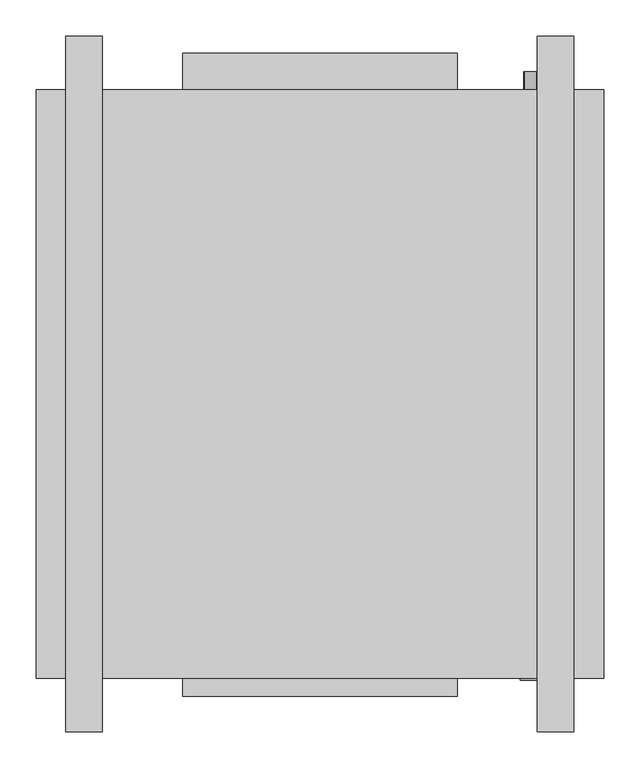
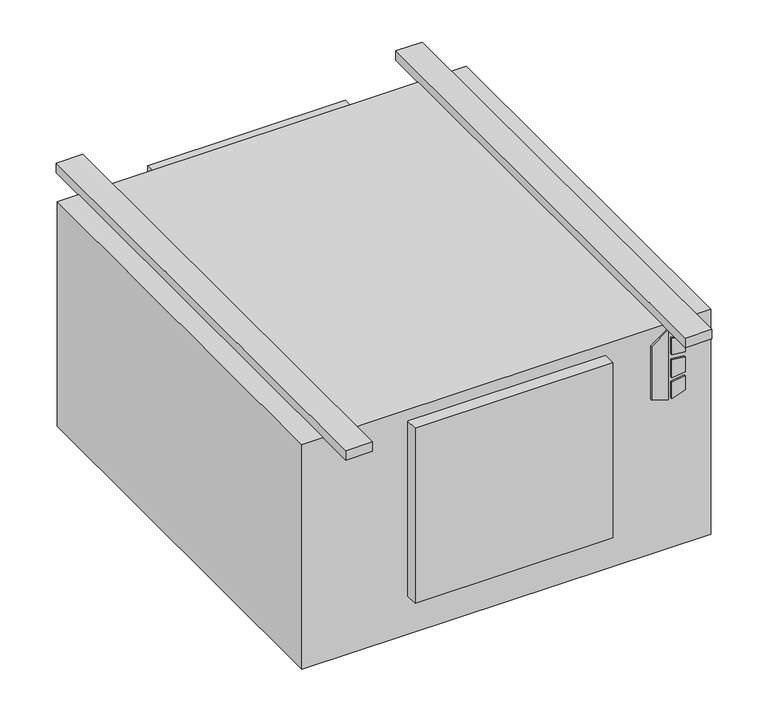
"""IFC4 building model written with IfcOpenShell, lengths in millimetres: proxy geometry, Concealed_High_Capacity_Horizontal_Cabinet_Fan_Coil_Unit_-_HXY_-_IEC_-_4-Pipe_RH_2022 : Size 06 - 277v/60Hz/1Ph - 6/2 Coil."""

import ifcopenshell
import ifcopenshell.guid

model = None  # the IFC model being written
_history = None  # IfcOwnerHistory: only IFC2X3 demands one
_inside = {}  # id of a spatial element -> (the spatial element, [elements in it])
_under = {}  # id of a project, library or spatial element -> (it, [spatial elements below it])
_declared = {}  # id of a project -> (the project, [libraries it declares])
_typed = {}  # id of a type object -> (the type object, [elements of that type])
_made_of = {}  # id of a material, layer set ... -> (it, [elements and type objects made of it])


def new_model(schema):
    """Start an empty IFC model of exactly this schema.

    Asked for "IFC4X3", IfcOpenShell would pick the latest addendum, in which some entities
    have other attributes; the version numbers below select the first issue.
    IFC2X3 requires an IfcOwnerHistory on every rooted entity: one is made here for all.
    """
    global model, _history
    if schema == "IFC4X3":
        model = ifcopenshell.file(schema_version=(4, 3, 0, 0))
    else:
        model = ifcopenshell.file(schema=schema)
    _inside.clear()
    _under.clear()
    _declared.clear()
    _typed.clear()
    _made_of.clear()
    _history = None
    if model.schema == "IFC2X3":
        org = make("IfcOrganization", Name="unknown")
        user = make(
            "IfcPersonAndOrganization",
            ThePerson=make("IfcPerson", FamilyName="unknown"),
            TheOrganization=org,
        )
        app = make(
            "IfcApplication",
            ApplicationDeveloper=org,
            Version="unknown",
            ApplicationFullName="unknown",
            ApplicationIdentifier="unknown",
        )
        _history = make(
            "IfcOwnerHistory",
            OwningUser=user,
            OwningApplication=app,
            ChangeAction="ADDED",
            CreationDate=0,
        )
    return model


def make(cls, **values):
    """One entity of the class cls with the attributes given. An attribute that is None is left unset."""
    return model.create_entity(
        cls, **{name: value for name, value in values.items() if value is not None}
    )


def rooted(cls, **values):
    """An entity with a GlobalId (a new one), such as an element, a storey or a relation."""
    return make(cls, GlobalId=ifcopenshell.guid.new(), OwnerHistory=_history, **values)


def si_unit(unit_type, name, prefix=None):
    """IfcSIUnit, for example si_unit("LENGTHUNIT", "METRE", prefix="MILLI")."""
    return make("IfcSIUnit", UnitType=unit_type, Prefix=prefix, Name=name)


def assignment(units):
    """IfcUnitAssignment: the units of a project."""
    return None if units is None else make("IfcUnitAssignment", Units=units)


def point(xyz):
    """IfcCartesianPoint."""
    return None if xyz is None else make("IfcCartesianPoint", Coordinates=xyz)


def direction(xyz):
    """IfcDirection."""
    return None if xyz is None else make("IfcDirection", DirectionRatios=xyz)


def frame(location, z_axis=None, x_axis=None):
    """IfcAxis2Placement3D, a coordinate frame: its origin and axes. An axis left out is left unset."""
    return make(
        "IfcAxis2Placement3D",
        Location=point(location),
        Axis=direction(z_axis),
        RefDirection=direction(x_axis),
    )


def frame_2d(location, x_axis=None):
    """IfcAxis2Placement2D, a coordinate frame in the plane: its origin and x axis."""
    return make(
        "IfcAxis2Placement2D", Location=point(location), RefDirection=direction(x_axis)
    )


def origin():
    """The frame at (0, 0, 0) with its axes left unset."""
    return frame((0.0, 0.0, 0.0))


def origin_with_axes():
    """The frame at (0, 0, 0) with the z axis (0, 0, 1) and the x axis (1, 0, 0) written out."""
    return frame((0.0, 0.0, 0.0), z_axis=(0.0, 0.0, 1.0), x_axis=(1.0, 0.0, 0.0))


def place(relative_to, where):
    """IfcLocalPlacement: puts the frame where relative to a parent placement (None: the world)."""
    return make(
        "IfcLocalPlacement", PlacementRelTo=relative_to, RelativePlacement=where
    )


def context(
    kind, dimensions, precision=None, world=None, true_north=None, identifier=None
):
    """IfcGeometricRepresentationContext, for example the 3D "Model" context."""
    return make(
        "IfcGeometricRepresentationContext",
        ContextIdentifier=identifier,
        ContextType=kind,
        CoordinateSpaceDimension=dimensions,
        Precision=precision,
        WorldCoordinateSystem=world,
        TrueNorth=true_north,
    )


def project(units=None, contexts=None):
    """IfcProject with its units and contexts."""
    return rooted(
        "IfcProject",
        Name="project",
        RepresentationContexts=contexts,
        UnitsInContext=assignment(units),
    )


def spatial(cls, under=None, at=None, **own):
    """A site, building, storey or space (cls), placed at a placement, below another one or the project."""
    s = rooted(cls, ObjectPlacement=at, **own)
    if under is not None:
        _under.setdefault(under.id(), (under, []))[1].append(s)
    return s


def polyline(points):
    """IfcPolyline through the points."""
    return make("IfcPolyline", Points=[point(p) for p in points])


def circle_curve(where, radius):
    """IfcCircle in the frame where."""
    return make("IfcCircle", Position=where, Radius=radius)


def trimmed(basis, trim1, trim2, sense, master):
    """IfcTrimmedCurve: the piece of a basis curve between two trims."""
    return make(
        "IfcTrimmedCurve",
        BasisCurve=basis,
        Trim1=trim1,
        Trim2=trim2,
        SenseAgreement=sense,
        MasterRepresentation=master,
    )


def segment(curve, same_sense, transition):
    """IfcCompositeCurveSegment."""
    return make(
        "IfcCompositeCurveSegment",
        Transition=transition,
        SameSense=same_sense,
        ParentCurve=curve,
    )


def composite_curve(segments, self_intersect=None):
    """IfcCompositeCurve: segments joined end to end."""
    return make("IfcCompositeCurve", Segments=segments, SelfIntersect=self_intersect)


def outline(outer, holes=None, kind="AREA"):
    """IfcArbitraryClosedProfileDef: a profile drawn as a closed curve; with holes, ...WithVoids."""
    if holes is None:
        return make("IfcArbitraryClosedProfileDef", ProfileType=kind, OuterCurve=outer)
    return make(
        "IfcArbitraryProfileDefWithVoids",
        ProfileType=kind,
        OuterCurve=outer,
        InnerCurves=holes,
    )


def extrude(swept, where, along, depth):
    """IfcExtrudedAreaSolid: the profile swept, set in the frame where, extruded along a direction by depth."""
    return make(
        "IfcExtrudedAreaSolid",
        SweptArea=swept,
        Position=where,
        ExtrudedDirection=direction(along),
        Depth=depth,
    )


def shape(context_of_items, identifier, shape_type, items):
    """IfcShapeRepresentation: the items that make up one representation, for example the "Body"."""
    return make(
        "IfcShapeRepresentation",
        ContextOfItems=context_of_items,
        RepresentationIdentifier=identifier,
        RepresentationType=shape_type,
        Items=items,
    )


def source(mapping_origin, context_of_items, identifier, shape_type, items):
    """IfcRepresentationMap: a shape defined once, which mapped items show again and again."""
    return make(
        "IfcRepresentationMap",
        MappingOrigin=mapping_origin,
        MappedRepresentation=shape(context_of_items, identifier, shape_type, items),
    )


def transform(
    local_origin,
    x_axis=None,
    y_axis=None,
    z_axis=None,
    scale=None,
    scale2=None,
    scale3=None,
    uniform=True,
):
    """IfcCartesianTransformationOperator3D, or its non-uniform kind. x_axis, y_axis, z_axis: its Axis1, 2, 3."""
    if uniform:
        return make(
            "IfcCartesianTransformationOperator3D",
            Axis1=direction(x_axis),
            Axis2=direction(y_axis),
            LocalOrigin=point(local_origin),
            Scale=scale,
            Axis3=direction(z_axis),
        )
    return make(
        "IfcCartesianTransformationOperator3DnonUniform",
        Axis1=direction(x_axis),
        Axis2=direction(y_axis),
        LocalOrigin=point(local_origin),
        Scale=scale,
        Axis3=direction(z_axis),
        Scale2=scale2,
        Scale3=scale3,
    )


def mapped(mapping_source, mapping_target):
    """IfcMappedItem: shows the shape of a source again, moved by a transform."""
    return make(
        "IfcMappedItem", MappingSource=mapping_source, MappingTarget=mapping_target
    )


def made_of(thing, what):
    """Note that an element or type object is made of a material, layer set ...; save() writes the relation."""
    if what is not None:
        _made_of.setdefault(what.id(), (what, []))[1].append(thing)
    return thing


def element(
    cls,
    number,
    at=None,
    inside=None,
    cuts=None,
    type_object=None,
    material=None,
    context=None,
    identifier="Body",
    shape_type=None,
    held_by="IfcProductDefinitionShape",
    body=None,
    shapes=None,
    **own,
):
    """One element of the class cls, such as IfcWall. Its Tag is "e" and its number.

    at: its placement. inside: the storey or other place that contains it. cuts: it is an
    opening in that element (IfcRelVoidsElement). A single representation is given by context,
    identifier, shape_type and body (its items); several are given by shapes. held_by: the class
    of the entity that holds the representations. save() writes the other relations.
    """
    e = rooted(cls, Tag="e%d" % number, ObjectPlacement=at, **own)
    if body is not None:
        shapes = [shape(context, identifier, shape_type, body)]
    if shapes is not None:
        e.Representation = make(held_by, Representations=shapes)
    if inside is not None:
        _inside.setdefault(inside.id(), (inside, []))[1].append(e)
    if cuts is not None:
        rooted(
            "IfcRelVoidsElement", RelatingBuildingElement=cuts, RelatedOpeningElement=e
        )
    if type_object is not None:
        _typed.setdefault(type_object.id(), (type_object, []))[1].append(e)
    return made_of(e, material)


def aggregate(whole, parts):
    """IfcRelAggregates: a whole, such as a stair, and the parts it consists of."""
    return rooted("IfcRelAggregates", RelatingObject=whole, RelatedObjects=parts)


def save(model, path):
    """Write the relations noted so far, then the file.

    IfcRelAggregates (storeys below a building ...), IfcRelContainedInSpatialStructure (elements
    in a storey), IfcRelDefinesByType, IfcRelAssociatesMaterial and IfcRelDeclares: one each for
    every whole, place, type object, material and project.
    """
    for whole, parts in _under.values():
        aggregate(whole, parts)
    for where, things in _inside.values():
        rooted(
            "IfcRelContainedInSpatialStructure",
            RelatedElements=things,
            RelatingStructure=where,
        )
    for kind, things in _typed.values():
        rooted("IfcRelDefinesByType", RelatedObjects=things, RelatingType=kind)
    for what, things in _made_of.values():
        rooted("IfcRelAssociatesMaterial", RelatedObjects=things, RelatingMaterial=what)
    for by, libraries in _declared.values():
        rooted("IfcRelDeclares", RelatingContext=by, RelatedDefinitions=libraries)
    model.write(path)


def mechanical_equipment_0bdab6c6(model_context):
    return source(origin(), model_context, "Body", "SweptSolid", [
        extrude(outline(polyline([(-142.4519297, 430.2868862), (-152.4, 462.4602728), (-10.2290756, 462.4602728), (-33.2510817, 430.2868862), (-142.4519297, 430.2868862)])), frame((0.0, -649.2875, 0.0), z_axis=(0.0, 1.0, 0.0), x_axis=(0.0, 0.0, 1.0)), (0.0, 0.0, 1.0), 3.175),
        extrude(outline(polyline([(-63.4526443, 469.2186058), (-66.6550368, 495.3), (-37.4261958, 495.3), (-29.3617807, 469.2186058), (-63.4526443, 469.2186058)])), frame((0.0, -649.2875, 0.0), z_axis=(0.0, 1.0, 0.0), x_axis=(0.0, 0.0, 1.0)), (0.0, 0.0, 1.0), 3.175),
        extrude(outline(polyline([(-115.3161712, 495.3), (-118.9816721, 469.2186058), (-152.4, 469.2186058), (-143.7657628, 495.3), (-115.3161712, 495.3)])), frame((0.0, -649.2875, 0.0), z_axis=(0.0, 1.0, 0.0), x_axis=(0.0, 0.0, 1.0)), (0.0, 0.0, 1.0), 3.175),
        extrude(outline(polyline([(-76.0010097, 495.3), (-73.7191834, 469.2186058), (-109.6567319, 469.2186058), (-106.9154669, 495.3), (-76.0010097, 495.3)])), frame((0.0, -649.2875, 0.0), z_axis=(0.0, 1.0, 0.0), x_axis=(0.0, 0.0, 1.0)), (0.0, 0.0, 1.0), 3.175),
        extrude(outline(composite_curve([segment(trimmed(circle_curve(frame_2d((-406.4, 444.5)), 9.525), [point((-406.4, 434.975))], [point((-406.4, 454.025))], False, "CARTESIAN"), True, "CONTINUOUS"), segment(trimmed(circle_curve(frame_2d((-406.4, 444.5)), 9.525), [point((-406.4, 454.025))], [point((-406.4, 434.975))], False, "CARTESIAN"), True, "CONTINUOUS")], self_intersect=False)), frame((0.0, 169.8625, 0.0), z_axis=(0.0, 1.0, 0.0), x_axis=(0.0, 0.0, 1.0)), (0.0, 0.0, 1.0), 25.4),
        extrude(outline(composite_curve([segment(trimmed(circle_curve(frame_2d((-330.2, 444.5)), 7.9375), [point((-330.2, 436.5625))], [point((-330.2, 452.4375))], False, "CARTESIAN"), True, "CONTINUOUS"), segment(trimmed(circle_curve(frame_2d((-330.2, 444.5)), 7.9375), [point((-330.2, 452.4375))], [point((-330.2, 436.5625))], False, "CARTESIAN"), True, "CONTINUOUS")], self_intersect=False)), frame((0.0, 169.8625, 0.0), z_axis=(0.0, 1.0, 0.0), x_axis=(0.0, 0.0, 1.0)), (0.0, 0.0, 1.0), 25.4),
        extrude(outline(composite_curve([segment(trimmed(circle_curve(frame_2d((-254.0, 444.5)), 7.9375), [point((-254.0, 436.5625))], [point((-254.0, 452.4375))], False, "CARTESIAN"), True, "CONTINUOUS"), segment(trimmed(circle_curve(frame_2d((-254.0, 444.5)), 7.9375), [point((-254.0, 452.4375))], [point((-254.0, 436.5625))], False, "CARTESIAN"), True, "CONTINUOUS")], self_intersect=False)), frame((0.0, 169.8625, 0.0), z_axis=(0.0, 1.0, 0.0), x_axis=(0.0, 0.0, 1.0)), (0.0, 0.0, 1.0), 25.4),
        extrude(outline(composite_curve([segment(trimmed(circle_curve(frame_2d((-177.8, 444.5)), 7.9375), [point((-177.8, 436.5625))], [point((-177.8, 452.4375))], False, "CARTESIAN"), True, "CONTINUOUS"), segment(trimmed(circle_curve(frame_2d((-177.8, 444.5)), 7.9375), [point((-177.8, 452.4375))], [point((-177.8, 436.5625))], False, "CARTESIAN"), True, "CONTINUOUS")], self_intersect=False)), frame((0.0, 169.8625, 0.0), z_axis=(0.0, 1.0, 0.0), x_axis=(0.0, 0.0, 1.0)), (0.0, 0.0, 1.0), 25.4),
        extrude(outline(composite_curve([segment(trimmed(circle_curve(frame_2d((-101.6, 444.5)), 7.9375), [point((-101.6, 436.5625))], [point((-101.6, 452.4375))], False, "CARTESIAN"), True, "CONTINUOUS"), segment(trimmed(circle_curve(frame_2d((-101.6, 444.5)), 7.9375), [point((-101.6, 452.4375))], [point((-101.6, 436.5625))], False, "CARTESIAN"), True, "CONTINUOUS")], self_intersect=False)), frame((0.0, 169.8625, 0.0), z_axis=(0.0, 1.0, 0.0), x_axis=(0.0, 0.0, 1.0)), (0.0, 0.0, 1.0), 25.4),
        extrude(outline(polyline([(546.1, 169.8625), (546.1, -646.1125), (-241.3, -646.1125), (-241.3, 169.8625), (546.1, 169.8625)])), frame((0.0, 0.0, -457.2), z_axis=(0.0, 0.0, 1.0), x_axis=(1.0, 0.0, 0.0)), (0.0, 0.0, 1.0), 457.2),
        extrude(outline(polyline([(-38.1, 220.6625), (342.9, 220.6625), (342.9, 169.8625), (-38.1, 169.8625), (-38.1, 220.6625)])), frame((0.0, 0.0, -377.825), z_axis=(0.0, 0.0, 1.0), x_axis=(1.0, 0.0, 0.0)), (0.0, 0.0, 1.0), 349.25),
        extrude(outline(polyline([(-149.225, 244.475), (-149.225, -720.725), (-200.025, -720.725), (-200.025, 244.475), (-149.225, 244.475)])), origin_with_axes(), (0.0, 0.0, 1.0), 19.05),
        extrude(outline(polyline([(504.825, 244.475), (504.825, -720.725), (454.025, -720.725), (454.025, 244.475), (504.825, 244.475)])), origin_with_axes(), (0.0, 0.0, 1.0), 19.05),
        extrude(outline(polyline([(342.9, -671.5125), (-38.1, -671.5125), (-38.1, -646.1125), (342.9, -646.1125), (342.9, -671.5125)])), frame((0.0, 0.0, -377.825), z_axis=(0.0, 0.0, 1.0), x_axis=(1.0, 0.0, 0.0)), (0.0, 0.0, 1.0), 355.6),
    ])


if __name__ == "__main__":
    model = new_model("IFC4")
    model_context = context("Model", 3, world=origin())
    ifc_project = project(units=[si_unit("LENGTHUNIT", "METRE", prefix="MILLI")], contexts=[model_context])
    site = spatial("IfcSite", under=ifc_project)
    building = spatial("IfcBuilding", under=site)
    placement = place(None, origin())
    mechanical_equipment_shape = mechanical_equipment_0bdab6c6(model_context)
    element("IfcBuildingElementProxy", 1, Name="Concealed_High_Capacity_Horizontal_Cabinet_Fan_Coil_Unit_-_HXY_-_IEC_-_4-Pipe_RH_2022 : Size 06 - 277v/60Hz/1Ph - 6/2 Coil", ObjectType="Concealed_High_Capacity_Horizontal_Cabinet_Fan_Coil_Unit_-_HXY_-_IEC_-_4-Pipe_RH_2022 : Size 06 - 277v/60Hz/1Ph - 6/2 Coil", at=placement, inside=building, context=model_context, shape_type="MappedRepresentation", body=[
        mapped(mechanical_equipment_shape, transform((0.0, 0.0, 0.0), x_axis=(1.0, 0.0, 0.0), y_axis=(0.0, 1.0, 0.0), z_axis=(0.0, 0.0, 1.0))),
    ])
    save(model, "model.ifc")
